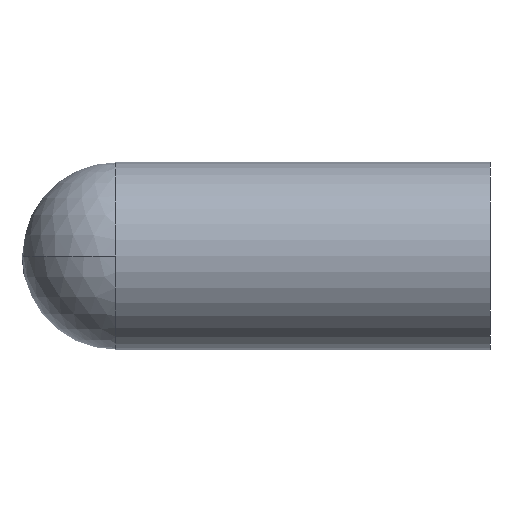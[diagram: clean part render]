
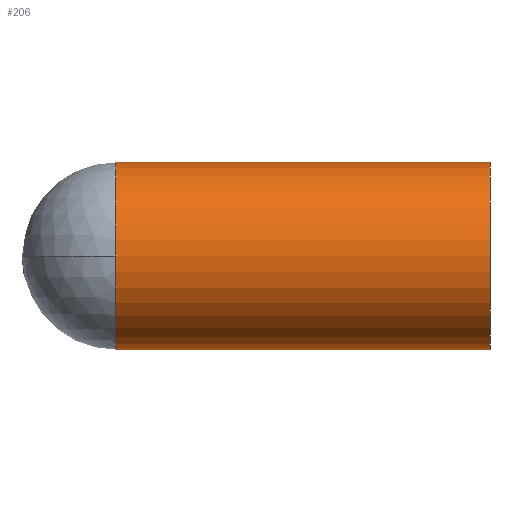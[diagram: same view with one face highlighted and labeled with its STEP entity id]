
A CAD part, left-side view. The second image highlights one B-rep face of the part: STEP entity #206.
In plain terms, the highlighted cylindrical face has radius 9.525 mm (diameter 19.05 mm), a partial arc.
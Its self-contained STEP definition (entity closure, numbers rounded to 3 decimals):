
#1 = EDGE_CURVE ( 'NONE', #76, #207, #5, .T. ) ;
#4 = CARTESIAN_POINT ( 'NONE',  ( -15.875, 38.1, 9.525 ) ) ;
#5 = CIRCLE ( 'NONE', #155, 9.525 ) ;
#9 = EDGE_LOOP ( 'NONE', ( #19, #294, #193, #261, #217 ) ) ;
#19 = ORIENTED_EDGE ( 'NONE', *, *, #186, .F. ) ;
#30 = DIRECTION ( 'NONE',  ( 0., -1., 0. ) ) ;
#33 = DIRECTION ( 'NONE',  ( 0., -1., 0. ) ) ;
#41 = CARTESIAN_POINT ( 'NONE',  ( -15.875, 38.1, 9.525 ) ) ;
#43 = CARTESIAN_POINT ( 'NONE',  ( -15.875, 0., 9.525 ) ) ;
#46 = CIRCLE ( 'NONE', #179, 9.525 ) ;
#60 = VECTOR ( 'NONE', #118, 1000. ) ;
#66 = VERTEX_POINT ( 'NONE', #41 ) ;
#71 = CIRCLE ( 'NONE', #265, 9.525 ) ;
#76 = VERTEX_POINT ( 'NONE', #273 ) ;
#86 = LINE ( 'NONE', #4, #242 ) ;
#97 = CARTESIAN_POINT ( 'NONE',  ( -15.875, 38.1, 0. ) ) ;
#101 = VERTEX_POINT ( 'NONE', #43 ) ;
#118 = DIRECTION ( 'NONE',  ( 0., -1., 0. ) ) ;
#120 = DIRECTION ( 'NONE',  ( 0., 0., -1. ) ) ;
#134 = VERTEX_POINT ( 'NONE', #139 ) ;
#138 = EDGE_CURVE ( 'NONE', #207, #134, #293, .T. ) ;
#139 = CARTESIAN_POINT ( 'NONE',  ( -15.875, 0., -9.525 ) ) ;
#140 = DIRECTION ( 'NONE',  ( 0., 0., -1. ) ) ;
#143 = DIRECTION ( 'NONE',  ( 0., -1., 0. ) ) ;
#155 = AXIS2_PLACEMENT_3D ( 'NONE', #169, #143, #300 ) ;
#159 = EDGE_CURVE ( 'NONE', #101, #134, #46, .T. ) ;
#169 = CARTESIAN_POINT ( 'NONE',  ( -15.875, 38.1, 0. ) ) ;
#170 = FACE_OUTER_BOUND ( 'NONE', #9, .T. ) ;
#176 = EDGE_CURVE ( 'NONE', #66, #76, #71, .T. ) ;
#177 = CARTESIAN_POINT ( 'NONE',  ( -15.875, 38.1, 0. ) ) ;
#179 = AXIS2_PLACEMENT_3D ( 'NONE', #238, #312, #120 ) ;
#183 = CYLINDRICAL_SURFACE ( 'NONE', #201, 9.525 ) ;
#186 = EDGE_CURVE ( 'NONE', #66, #101, #86, .T. ) ;
#191 = DIRECTION ( 'NONE',  ( 0., 0., -1. ) ) ;
#193 = ORIENTED_EDGE ( 'NONE', *, *, #1, .T. ) ;
#201 = AXIS2_PLACEMENT_3D ( 'NONE', #177, #237, #140 ) ;
#206 = ADVANCED_FACE ( 'NONE', ( #170 ), #183, .T. ) ;
#207 = VERTEX_POINT ( 'NONE', #255 ) ;
#217 = ORIENTED_EDGE ( 'NONE', *, *, #159, .F. ) ;
#237 = DIRECTION ( 'NONE',  ( 0., -1., 0. ) ) ;
#238 = CARTESIAN_POINT ( 'NONE',  ( -15.875, 0., 0. ) ) ;
#242 = VECTOR ( 'NONE', #33, 1000. ) ;
#255 = CARTESIAN_POINT ( 'NONE',  ( -15.875, 38.1, -9.525 ) ) ;
#261 = ORIENTED_EDGE ( 'NONE', *, *, #138, .T. ) ;
#265 = AXIS2_PLACEMENT_3D ( 'NONE', #97, #30, #191 ) ;
#273 = CARTESIAN_POINT ( 'NONE',  ( -25.4, 38.1, 0. ) ) ;
#282 = CARTESIAN_POINT ( 'NONE',  ( -15.875, 38.1, -9.525 ) ) ;
#293 = LINE ( 'NONE', #282, #60 ) ;
#294 = ORIENTED_EDGE ( 'NONE', *, *, #176, .T. ) ;
#300 = DIRECTION ( 'NONE',  ( 0., 0., -1. ) ) ;
#312 = DIRECTION ( 'NONE',  ( 0., -1., 0. ) ) ;
